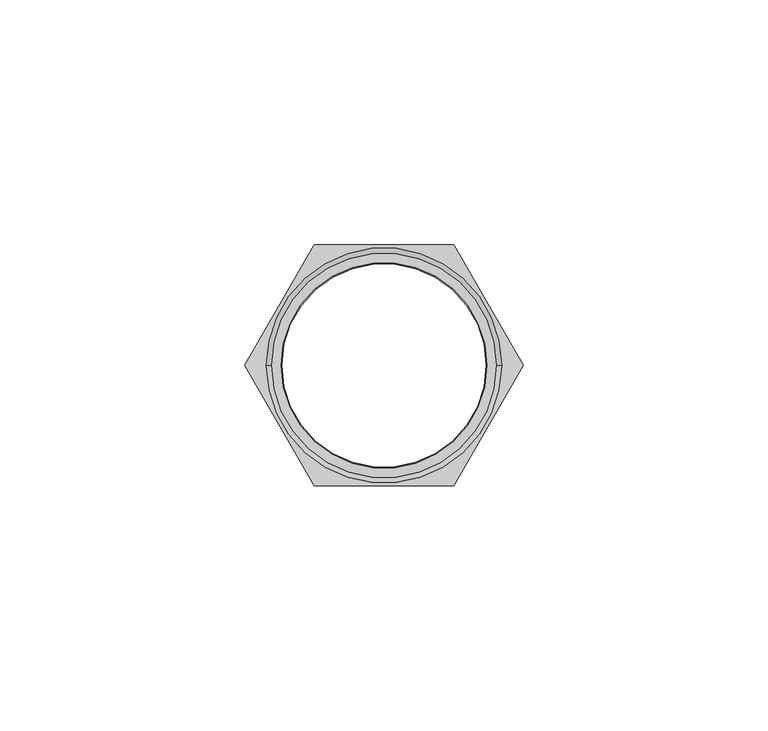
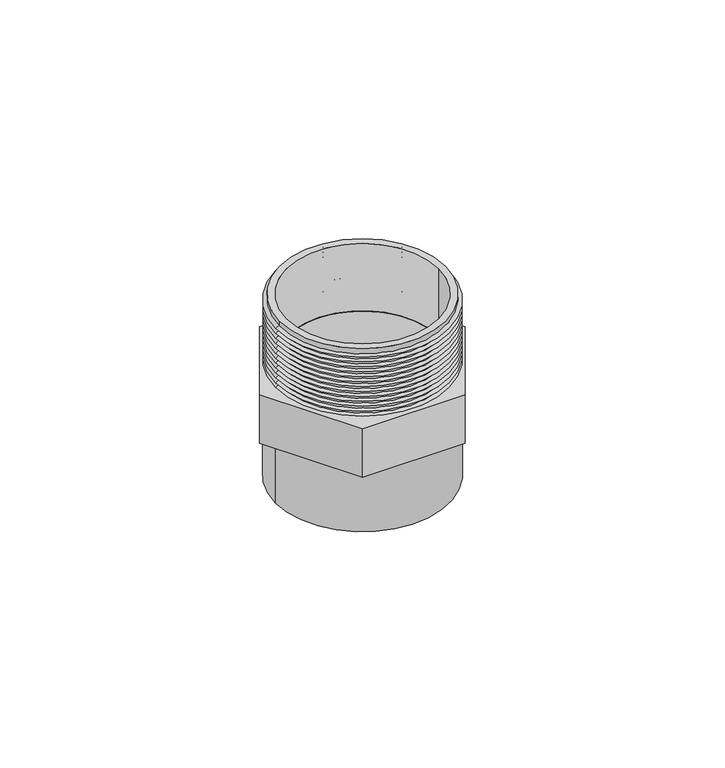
"""IFC4 building model written with IfcOpenShell, lengths in millimetres: valve geometry, Adaptador Macho_Lubrizol_CPVC_FlowGuard_MX 38mm : Adaptador Macho_Lubrizol_CPVC_FlowGuard_MX 38mm."""

from ifc_helpers import new_model, si_unit, point, frame, origin, origin_with_axes, origin_2d, place, context, project, spatial, polyline, circle_curve, trimmed, segment, composite_curve, outline, extrude, source, transform, mapped, element, save
from ifc_brep_helpers import plane_surface, cylinder_surface, revolved_surface, advanced_brep


def valve_c2e6266b(model_context):
    return source(origin(), model_context, "Body", "SolidModel", [
        extrude(outline(composite_curve([segment(trimmed(circle_curve(origin_2d(), 22.9323508), [point((-22.9323508, 0.0))], [point((22.9323508, 0.0))], False, "CARTESIAN"), True, "CONTINUOUS"), segment(trimmed(circle_curve(origin_2d(), 22.9323508), [point((22.9323508, 0.0))], [point((-22.9323508, 0.0))], False, "CARTESIAN"), True, "CONTINUOUS")], self_intersect=False), holes=[composite_curve([segment(trimmed(circle_curve(origin_2d(), 21.0), [point((-21.0, 0.0))], [point((21.0, 0.0))], True, "CARTESIAN"), True, "CONTINUOUS"), segment(trimmed(circle_curve(origin_2d(), 21.0), [point((21.0, 0.0))], [point((-21.0, 0.0))], True, "CARTESIAN"), True, "CONTINUOUS")], self_intersect=False)]), frame((0.0, 0.0, 33.1707154), z_axis=(0.0, 0.0, 1.0), x_axis=(1.0, 0.0, 0.0)), (0.0, 0.0, 1.0), 19.6840834),
        extrude(outline(polyline([(-14.2085802, -24.6099828), (-28.4171604, 0.0), (-14.2085802, 24.6099828), (14.2085802, 24.6099828), (28.4171604, 0.0), (14.2085802, -24.6099828), (-14.2085802, -24.6099828)]), holes=[composite_curve([segment(trimmed(circle_curve(origin_2d(), 20.7927658), [point((-20.7927658, 0.0))], [point((20.7927658, 0.0))], True, "CARTESIAN"), True, "CONTINUOUS"), segment(trimmed(circle_curve(origin_2d(), 20.7927658), [point((20.7927658, 0.0))], [point((-20.7927658, 0.0))], True, "CARTESIAN"), True, "CONTINUOUS")], self_intersect=False)]), frame((0.0, 0.0, 19.0682941), z_axis=(0.0, 0.0, 1.0), x_axis=(1.0, 0.0, 0.0)), (0.0, 0.0, 1.0), 14.1024213),
        advanced_brep(
        [(22.9362873, 0.0, 51.8637271), (-22.9362873, 0.0, 51.8637271), (-22.9362873, 0.0, 52.8547988), (22.9362873, 0.0, 52.8547988), (24.0, 0.0, 51.1189075), (-24.0, 0.0, 51.1189075), (22.9657757, 0.0, 50.3947359), (-22.9657757, 0.0, 50.3947359), (24.0, 0.0, 49.6705643), (-24.0, 0.0, 49.6705643), (22.9657757, 0.0, 48.9463926), (-22.9657757, 0.0, 48.9463926), (24.0, 0.0, 48.222221), (-24.0, 0.0, 48.222221), (22.9657757, 0.0, 47.4980494), (-22.9657757, 0.0, 47.4980494), (24.0, 0.0, 46.7738778), (-24.0, 0.0, 46.7738778), (22.9657757, 0.0, 46.0497062), (-22.9657757, 0.0, 46.0497062), (24.0, 0.0, 45.3255345), (-24.0, 0.0, 45.3255345), (22.9657757, 0.0, 44.6013629), (-22.9657757, 0.0, 44.6013629), (24.0, 0.0, 43.8771913), (-24.0, 0.0, 43.8771913), (22.9657757, 0.0, 43.1530197), (-22.9657757, 0.0, 43.1530197), (24.0, 0.0, 42.428848), (-24.0, 0.0, 42.428848), (22.9657757, 0.0, 41.7046764), (-22.9657757, 0.0, 41.7046764), (24.0, 0.0, 40.9805048), (-24.0, 0.0, 40.9805048), (22.9657757, 0.0, 40.2563332), (-22.9657757, 0.0, 40.2563332), (24.0, 0.0, 39.5321616), (-24.0, 0.0, 39.5321616), (22.9992007, 0.0, 38.8313943), (-22.9992007, 0.0, 38.8313943), (24.0, 0.0, 38.1306271), (-24.0, 0.0, 38.1306271), (22.9992007, 0.0, 37.4298599), (-22.9992007, 0.0, 37.4298599), (24.0, 0.0, 36.7290927), (-24.0, 0.0, 36.7290927), (22.9323508, 0.0, 35.9815167), (-22.9323508, 0.0, 35.9815167), (24.0, 0.0, 35.2339406), (-24.0, 0.0, 35.2339406), (22.9992007, 0.0, 34.5331734), (-22.9992007, 0.0, 34.5331734), (22.0854831, 0.0, 33.1707154), (-22.0854831, 0.0, 33.1707154), (-23.0550075, 0.0, 33.1707154), (23.0550075, 0.0, 33.1707154), (22.0854831, 0.0, 52.8547988), (-22.0854831, 0.0, 52.8547988), (24.0, 0.0, 33.8324062), (-24.0, 0.0, 33.8324062)],
        [
            (0, 1, circle_curve(frame((0.0, 0.0, 51.8637271), z_axis=(0.0, 0.0, 1.0), x_axis=(-1.0, 0.0, 0.0)), 22.9362873)),
            (1, 2),
            (2, 3, circle_curve(frame((0.0, 0.0, 52.8547988), z_axis=(0.0, 0.0, -1.0), x_axis=(-1.0, 0.0, 0.0)), 22.9362873)),
            (3, 0),
            (1, 0, circle_curve(frame((0.0, 0.0, 51.8637271), z_axis=(0.0, 0.0, 1.0), x_axis=(-1.0, 0.0, 0.0)), 22.9362873)),
            (3, 2, circle_curve(frame((0.0, 0.0, 52.8547988), z_axis=(0.0, 0.0, -1.0), x_axis=(-1.0, 0.0, 0.0)), 22.9362873)),
            (4, 5, circle_curve(frame((0.0, 0.0, 51.1189075), z_axis=(0.0, 0.0, 1.0), x_axis=(-1.0, 0.0, 0.0)), 24.0)),
            (5, 1),
            (0, 4),
            (5, 4, circle_curve(frame((0.0, 0.0, 51.1189075), z_axis=(0.0, 0.0, 1.0), x_axis=(-1.0, 0.0, 0.0)), 24.0)),
            (6, 7, circle_curve(frame((0.0, 0.0, 50.3947359), z_axis=(0.0, 0.0, 1.0), x_axis=(-1.0, 0.0, 0.0)), 22.9657757)),
            (7, 5),
            (4, 6),
            (7, 6, circle_curve(frame((0.0, 0.0, 50.3947359), z_axis=(0.0, 0.0, 1.0), x_axis=(-1.0, 0.0, 0.0)), 22.9657757)),
            (8, 9, circle_curve(frame((0.0, 0.0, 49.6705643), z_axis=(0.0, 0.0, 1.0), x_axis=(-1.0, 0.0, 0.0)), 24.0)),
            (9, 7),
            (6, 8),
            (9, 8, circle_curve(frame((0.0, 0.0, 49.6705643), z_axis=(0.0, 0.0, 1.0), x_axis=(-1.0, 0.0, 0.0)), 24.0)),
            (10, 11, circle_curve(frame((0.0, 0.0, 48.9463926), z_axis=(0.0, 0.0, 1.0), x_axis=(-1.0, 0.0, 0.0)), 22.9657757)),
            (11, 9),
            (8, 10),
            (11, 10, circle_curve(frame((0.0, 0.0, 48.9463926), z_axis=(0.0, 0.0, 1.0), x_axis=(-1.0, 0.0, 0.0)), 22.9657757)),
            (12, 13, circle_curve(frame((0.0, 0.0, 48.222221), z_axis=(0.0, 0.0, 1.0), x_axis=(-1.0, 0.0, 0.0)), 24.0)),
            (13, 11),
            (10, 12),
            (13, 12, circle_curve(frame((0.0, 0.0, 48.222221), z_axis=(0.0, 0.0, 1.0), x_axis=(-1.0, 0.0, 0.0)), 24.0)),
            (14, 15, circle_curve(frame((0.0, 0.0, 47.4980494), z_axis=(0.0, 0.0, 1.0), x_axis=(-1.0, 0.0, 0.0)), 22.9657757)),
            (15, 13),
            (12, 14),
            (15, 14, circle_curve(frame((0.0, 0.0, 47.4980494), z_axis=(0.0, 0.0, 1.0), x_axis=(-1.0, 0.0, 0.0)), 22.9657757)),
            (16, 17, circle_curve(frame((0.0, 0.0, 46.7738778), z_axis=(0.0, 0.0, 1.0), x_axis=(-1.0, 0.0, 0.0)), 24.0)),
            (17, 15),
            (14, 16),
            (17, 16, circle_curve(frame((0.0, 0.0, 46.7738778), z_axis=(0.0, 0.0, 1.0), x_axis=(-1.0, 0.0, 0.0)), 24.0)),
            (18, 19, circle_curve(frame((0.0, 0.0, 46.0497062), z_axis=(0.0, 0.0, 1.0), x_axis=(-1.0, 0.0, 0.0)), 22.9657757)),
            (19, 17),
            (16, 18),
            (19, 18, circle_curve(frame((0.0, 0.0, 46.0497062), z_axis=(0.0, 0.0, 1.0), x_axis=(-1.0, 0.0, 0.0)), 22.9657757)),
            (20, 21, circle_curve(frame((0.0, 0.0, 45.3255345), z_axis=(0.0, 0.0, 1.0), x_axis=(-1.0, 0.0, 0.0)), 24.0)),
            (21, 19),
            (18, 20),
            (21, 20, circle_curve(frame((0.0, 0.0, 45.3255345), z_axis=(0.0, 0.0, 1.0), x_axis=(-1.0, 0.0, 0.0)), 24.0)),
            (22, 23, circle_curve(frame((0.0, 0.0, 44.6013629), z_axis=(0.0, 0.0, 1.0), x_axis=(-1.0, 0.0, 0.0)), 22.9657757)),
            (23, 21),
            (20, 22),
            (23, 22, circle_curve(frame((0.0, 0.0, 44.6013629), z_axis=(0.0, 0.0, 1.0), x_axis=(-1.0, 0.0, 0.0)), 22.9657757)),
            (24, 25, circle_curve(frame((0.0, 0.0, 43.8771913), z_axis=(0.0, 0.0, 1.0), x_axis=(-1.0, 0.0, 0.0)), 24.0)),
            (25, 23),
            (22, 24),
            (25, 24, circle_curve(frame((0.0, 0.0, 43.8771913), z_axis=(0.0, 0.0, 1.0), x_axis=(-1.0, 0.0, 0.0)), 24.0)),
            (26, 27, circle_curve(frame((0.0, 0.0, 43.1530197), z_axis=(0.0, 0.0, 1.0), x_axis=(-1.0, 0.0, 0.0)), 22.9657757)),
            (27, 25),
            (24, 26),
            (27, 26, circle_curve(frame((0.0, 0.0, 43.1530197), z_axis=(0.0, 0.0, 1.0), x_axis=(-1.0, 0.0, 0.0)), 22.9657757)),
            (28, 29, circle_curve(frame((0.0, 0.0, 42.428848), z_axis=(0.0, 0.0, 1.0), x_axis=(-1.0, 0.0, 0.0)), 24.0)),
            (29, 27),
            (26, 28),
            (29, 28, circle_curve(frame((0.0, 0.0, 42.428848), z_axis=(0.0, 0.0, 1.0), x_axis=(-1.0, 0.0, 0.0)), 24.0)),
            (30, 31, circle_curve(frame((0.0, 0.0, 41.7046764), z_axis=(0.0, 0.0, 1.0), x_axis=(-1.0, 0.0, 0.0)), 22.9657757)),
            (31, 29),
            (28, 30),
            (31, 30, circle_curve(frame((0.0, 0.0, 41.7046764), z_axis=(0.0, 0.0, 1.0), x_axis=(-1.0, 0.0, 0.0)), 22.9657757)),
            (32, 33, circle_curve(frame((0.0, 0.0, 40.9805048), z_axis=(0.0, 0.0, 1.0), x_axis=(-1.0, 0.0, 0.0)), 24.0)),
            (33, 31),
            (30, 32),
            (33, 32, circle_curve(frame((0.0, 0.0, 40.9805048), z_axis=(0.0, 0.0, 1.0), x_axis=(-1.0, 0.0, 0.0)), 24.0)),
            (34, 35, circle_curve(frame((0.0, 0.0, 40.2563332), z_axis=(0.0, 0.0, 1.0), x_axis=(-1.0, 0.0, 0.0)), 22.9657757)),
            (35, 33),
            (32, 34),
            (35, 34, circle_curve(frame((0.0, 0.0, 40.2563332), z_axis=(0.0, 0.0, 1.0), x_axis=(-1.0, 0.0, 0.0)), 22.9657757)),
            (36, 37, circle_curve(frame((0.0, 0.0, 39.5321616), z_axis=(0.0, 0.0, 1.0), x_axis=(-1.0, 0.0, 0.0)), 24.0)),
            (37, 35),
            (34, 36),
            (37, 36, circle_curve(frame((0.0, 0.0, 39.5321616), z_axis=(0.0, 0.0, 1.0), x_axis=(-1.0, 0.0, 0.0)), 24.0)),
            (38, 39, circle_curve(frame((0.0, 0.0, 38.8313943), z_axis=(0.0, 0.0, 1.0), x_axis=(-1.0, 0.0, 0.0)), 22.9992007)),
            (39, 37),
            (36, 38),
            (39, 38, circle_curve(frame((0.0, 0.0, 38.8313943), z_axis=(0.0, 0.0, 1.0), x_axis=(-1.0, 0.0, 0.0)), 22.9992007)),
            (40, 41, circle_curve(frame((0.0, 0.0, 38.1306271), z_axis=(0.0, 0.0, 1.0), x_axis=(-1.0, 0.0, 0.0)), 24.0)),
            (41, 39),
            (38, 40),
            (41, 40, circle_curve(frame((0.0, 0.0, 38.1306271), z_axis=(0.0, 0.0, 1.0), x_axis=(-1.0, 0.0, 0.0)), 24.0)),
            (42, 43, circle_curve(frame((0.0, 0.0, 37.4298599), z_axis=(0.0, 0.0, 1.0), x_axis=(-1.0, 0.0, 0.0)), 22.9992007)),
            (43, 41),
            (40, 42),
            (43, 42, circle_curve(frame((0.0, 0.0, 37.4298599), z_axis=(0.0, 0.0, 1.0), x_axis=(-1.0, 0.0, 0.0)), 22.9992007)),
            (44, 45, circle_curve(frame((0.0, 0.0, 36.7290927), z_axis=(0.0, 0.0, 1.0), x_axis=(-1.0, 0.0, 0.0)), 24.0)),
            (45, 43),
            (42, 44),
            (45, 44, circle_curve(frame((0.0, 0.0, 36.7290927), z_axis=(0.0, 0.0, 1.0), x_axis=(-1.0, 0.0, 0.0)), 24.0)),
            (46, 47, circle_curve(frame((0.0, 0.0, 35.9815167), z_axis=(0.0, 0.0, 1.0), x_axis=(-1.0, 0.0, 0.0)), 22.9323508)),
            (47, 45),
            (44, 46),
            (47, 46, circle_curve(frame((0.0, 0.0, 35.9815167), z_axis=(0.0, 0.0, 1.0), x_axis=(-1.0, 0.0, 0.0)), 22.9323508)),
            (48, 49, circle_curve(frame((0.0, 0.0, 35.2339406), z_axis=(0.0, 0.0, 1.0), x_axis=(-1.0, 0.0, 0.0)), 24.0)),
            (49, 47),
            (46, 48),
            (49, 48, circle_curve(frame((0.0, 0.0, 35.2339406), z_axis=(0.0, 0.0, 1.0), x_axis=(-1.0, 0.0, 0.0)), 24.0)),
            (50, 51, circle_curve(frame((0.0, 0.0, 34.5331734), z_axis=(0.0, 0.0, 1.0), x_axis=(-1.0, 0.0, 0.0)), 22.9992007)),
            (51, 49),
            (48, 50),
            (51, 50, circle_curve(frame((0.0, 0.0, 34.5331734), z_axis=(0.0, 0.0, 1.0), x_axis=(-1.0, 0.0, 0.0)), 22.9992007)),
            (52, 53, circle_curve(frame((0.0, 0.0, 33.1707154), z_axis=(0.0, 0.0, 1.0), x_axis=(-1.0, 0.0, 0.0)), 22.0854831)),
            (53, 54),
            (54, 55, circle_curve(frame((0.0, 0.0, 33.1707154), z_axis=(0.0, 0.0, -1.0), x_axis=(-1.0, 0.0, 0.0)), 23.0550075)),
            (55, 52),
            (53, 52, circle_curve(frame((0.0, 0.0, 33.1707154), z_axis=(0.0, 0.0, 1.0), x_axis=(-1.0, 0.0, 0.0)), 22.0854831)),
            (55, 54, circle_curve(frame((0.0, 0.0, 33.1707154), z_axis=(0.0, 0.0, -1.0), x_axis=(-1.0, 0.0, 0.0)), 23.0550075)),
            (56, 57, circle_curve(frame((0.0, 0.0, 52.8547988), z_axis=(0.0, 0.0, 1.0), x_axis=(-1.0, 0.0, 0.0)), 22.0854831)),
            (57, 53),
            (52, 56),
            (57, 56, circle_curve(frame((0.0, 0.0, 52.8547988), z_axis=(0.0, 0.0, 1.0), x_axis=(-1.0, 0.0, 0.0)), 22.0854831)),
            (2, 57),
            (56, 3),
            (58, 59, circle_curve(frame((0.0, 0.0, 33.8324062), z_axis=(0.0, 0.0, 1.0), x_axis=(-1.0, 0.0, 0.0)), 24.0)),
            (59, 51),
            (50, 58),
            (59, 58, circle_curve(frame((0.0, 0.0, 33.8324062), z_axis=(0.0, 0.0, 1.0), x_axis=(-1.0, 0.0, 0.0)), 24.0)),
            (54, 59),
            (58, 55),
        ],
        [
            cylinder_surface(frame((0.0, 0.0, 47.613787), z_axis=(0.0, 0.0, -1.0), x_axis=(-1.0, 0.0, 0.0)), 22.9362873),
            revolved_surface(polyline([(-22.9362873, 0.0, 51.8637271), (-24.0, 0.0, 51.1189075)]), (0.0, 0.0, 47.613787), (0.0, 0.0, -1.0)),
            revolved_surface(polyline([(-24.0, 0.0, 51.1189075), (-22.9657757, 0.0, 50.3947359)]), (0.0, 0.0, 47.613787), (0.0, 0.0, -1.0)),
            revolved_surface(polyline([(-22.9657757, 0.0, 50.3947359), (-24.0, 0.0, 49.6705643)]), (0.0, 0.0, 47.613787), (0.0, 0.0, -1.0)),
            revolved_surface(polyline([(-24.0, 0.0, 49.6705643), (-22.9657757, 0.0, 48.9463926)]), (0.0, 0.0, 47.613787), (0.0, 0.0, -1.0)),
            revolved_surface(polyline([(-22.9657757, 0.0, 48.9463926), (-24.0, 0.0, 48.222221)]), (0.0, 0.0, 47.613787), (0.0, 0.0, -1.0)),
            revolved_surface(polyline([(-24.0, 0.0, 48.222221), (-22.9657757, 0.0, 47.4980494)]), (0.0, 0.0, 47.613787), (0.0, 0.0, -1.0)),
            revolved_surface(polyline([(-22.9657757, 0.0, 47.4980494), (-24.0, 0.0, 46.7738778)]), (0.0, 0.0, 47.613787), (0.0, 0.0, -1.0)),
            revolved_surface(polyline([(-24.0, 0.0, 46.7738778), (-22.9657757, 0.0, 46.0497062)]), (0.0, 0.0, 47.613787), (0.0, 0.0, -1.0)),
            revolved_surface(polyline([(-22.9657757, 0.0, 46.0497062), (-24.0, 0.0, 45.3255345)]), (0.0, 0.0, 47.613787), (0.0, 0.0, -1.0)),
            revolved_surface(polyline([(-24.0, 0.0, 45.3255345), (-22.9657757, 0.0, 44.6013629)]), (0.0, 0.0, 47.613787), (0.0, 0.0, -1.0)),
            revolved_surface(polyline([(-22.9657757, 0.0, 44.6013629), (-24.0, 0.0, 43.8771913)]), (0.0, 0.0, 47.613787), (0.0, 0.0, -1.0)),
            revolved_surface(polyline([(-24.0, 0.0, 43.8771913), (-22.9657757, 0.0, 43.1530197)]), (0.0, 0.0, 47.613787), (0.0, 0.0, -1.0)),
            revolved_surface(polyline([(-22.9657757, 0.0, 43.1530197), (-24.0, 0.0, 42.428848)]), (0.0, 0.0, 47.613787), (0.0, 0.0, -1.0)),
            revolved_surface(polyline([(-24.0, 0.0, 42.428848), (-22.9657757, 0.0, 41.7046764)]), (0.0, 0.0, 47.613787), (0.0, 0.0, -1.0)),
            revolved_surface(polyline([(-22.9657757, 0.0, 41.7046764), (-24.0, 0.0, 40.9805048)]), (0.0, 0.0, 47.613787), (0.0, 0.0, -1.0)),
            revolved_surface(polyline([(-24.0, 0.0, 40.9805048), (-22.9657757, 0.0, 40.2563332)]), (0.0, 0.0, 47.613787), (0.0, 0.0, -1.0)),
            revolved_surface(polyline([(-22.9657757, 0.0, 40.2563332), (-24.0, 0.0, 39.5321616)]), (0.0, 0.0, 47.613787), (0.0, 0.0, -1.0)),
            revolved_surface(polyline([(-24.0, 0.0, 39.5321616), (-22.9992007, 0.0, 38.8313943)]), (0.0, 0.0, 47.613787), (0.0, 0.0, -1.0)),
            revolved_surface(polyline([(-22.9992007, 0.0, 38.8313943), (-24.0, 0.0, 38.1306271)]), (0.0, 0.0, 47.613787), (0.0, 0.0, -1.0)),
            revolved_surface(polyline([(-24.0, 0.0, 38.1306271), (-22.9992007, 0.0, 37.4298599)]), (0.0, 0.0, 47.613787), (0.0, 0.0, -1.0)),
            revolved_surface(polyline([(-22.9992007, 0.0, 37.4298599), (-24.0, 0.0, 36.7290927)]), (0.0, 0.0, 47.613787), (0.0, 0.0, -1.0)),
            revolved_surface(polyline([(-24.0, 0.0, 36.7290927), (-22.9323508, 0.0, 35.9815167)]), (0.0, 0.0, 47.613787), (0.0, 0.0, -1.0)),
            revolved_surface(polyline([(-22.9323508, 0.0, 35.9815167), (-24.0, 0.0, 35.2339406)]), (0.0, 0.0, 47.613787), (0.0, 0.0, -1.0)),
            revolved_surface(polyline([(-24.0, 0.0, 35.2339406), (-22.9992007, 0.0, 34.5331734)]), (0.0, 0.0, 47.613787), (0.0, 0.0, -1.0)),
            plane_surface(frame((0.0, 0.0, 33.1707154), z_axis=(0.0, 0.0, -1.0), x_axis=(-1.0, 0.0, 0.0))),
            revolved_surface(polyline([(-22.0854831, 0.0, 33.1707154), (-22.0854831, 0.0, 52.8547988)]), (0.0, 0.0, 47.613787), (0.0, 0.0, -1.0)),
            plane_surface(frame((0.0, 0.0, 52.8547988), z_axis=(0.0, 0.0, 1.0), x_axis=(-1.0, 0.0, 0.0))),
            revolved_surface(polyline([(-22.9992007, 0.0, 34.5331734), (-24.0, 0.0, 33.8324062)]), (0.0, 0.0, 47.613787), (0.0, 0.0, -1.0)),
            revolved_surface(polyline([(-24.0, 0.0, 33.8324062), (-23.0550075, 0.0, 33.1707154)]), (0.0, 0.0, 47.613787), (0.0, 0.0, -1.0)),
        ],
        [
            (0, [[1, 2, 3, 4]]),
            (0, [[5, -4, 6, -2]]),
            (1, [[7, 8, -1, 9]]),
            (1, [[10, -9, -5, -8]]),
            (2, [[11, 12, -7, 13]]),
            (2, [[14, -13, -10, -12]]),
            (3, [[15, 16, -11, 17]]),
            (3, [[18, -17, -14, -16]]),
            (4, [[19, 20, -15, 21]]),
            (4, [[22, -21, -18, -20]]),
            (5, [[23, 24, -19, 25]]),
            (5, [[26, -25, -22, -24]]),
            (6, [[27, 28, -23, 29]]),
            (6, [[30, -29, -26, -28]]),
            (7, [[31, 32, -27, 33]]),
            (7, [[34, -33, -30, -32]]),
            (8, [[35, 36, -31, 37]]),
            (8, [[38, -37, -34, -36]]),
            (9, [[39, 40, -35, 41]]),
            (9, [[42, -41, -38, -40]]),
            (10, [[43, 44, -39, 45]]),
            (10, [[46, -45, -42, -44]]),
            (11, [[47, 48, -43, 49]]),
            (11, [[50, -49, -46, -48]]),
            (12, [[51, 52, -47, 53]]),
            (12, [[54, -53, -50, -52]]),
            (13, [[55, 56, -51, 57]]),
            (13, [[58, -57, -54, -56]]),
            (14, [[59, 60, -55, 61]]),
            (14, [[62, -61, -58, -60]]),
            (15, [[63, 64, -59, 65]]),
            (15, [[66, -65, -62, -64]]),
            (16, [[67, 68, -63, 69]]),
            (16, [[70, -69, -66, -68]]),
            (17, [[71, 72, -67, 73]]),
            (17, [[74, -73, -70, -72]]),
            (18, [[75, 76, -71, 77]]),
            (18, [[78, -77, -74, -76]]),
            (19, [[79, 80, -75, 81]]),
            (19, [[82, -81, -78, -80]]),
            (20, [[83, 84, -79, 85]]),
            (20, [[86, -85, -82, -84]]),
            (21, [[87, 88, -83, 89]]),
            (21, [[90, -89, -86, -88]]),
            (22, [[91, 92, -87, 93]]),
            (22, [[94, -93, -90, -92]]),
            (23, [[95, 96, -91, 97]]),
            (23, [[98, -97, -94, -96]]),
            (24, [[99, 100, -95, 101]]),
            (24, [[102, -101, -98, -100]]),
            (25, [[103, 104, 105, 106]]),
            (25, [[107, -106, 108, -104]]),
            (26, [[109, 110, -103, 111]]),
            (26, [[112, -111, -107, -110]]),
            (27, [[-3, 113, -109, 114]]),
            (27, [[-6, -114, -112, -113]]),
            (28, [[115, 116, -99, 117]]),
            (28, [[118, -117, -102, -116]]),
            (29, [[-105, 119, -115, 120]]),
            (29, [[-108, -120, -118, -119]]),
        ],
    ),
        extrude(outline(composite_curve([segment(trimmed(circle_curve(origin_2d(), 24.0), [point((-24.0, 0.0))], [point((24.0, 0.0))], False, "CARTESIAN"), True, "CONTINUOUS"), segment(trimmed(circle_curve(origin_2d(), 24.0), [point((24.0, 0.0))], [point((-24.0, 0.0))], False, "CARTESIAN"), True, "CONTINUOUS")], self_intersect=False), holes=[composite_curve([segment(trimmed(circle_curve(origin_2d(), 21.0), [point((-21.0, 0.0))], [point((21.0, 0.0))], True, "CARTESIAN"), True, "CONTINUOUS"), segment(trimmed(circle_curve(origin_2d(), 21.0), [point((21.0, 0.0))], [point((-21.0, 0.0))], True, "CARTESIAN"), True, "CONTINUOUS")], self_intersect=False)]), origin_with_axes(), (0.0, 0.0, 1.0), 19.0682941),
    ])


if __name__ == "__main__":
    model = new_model("IFC4")
    model_context = context("Model", 3, world=origin())
    ifc_project = project(units=[si_unit("LENGTHUNIT", "METRE", prefix="MILLI")], contexts=[model_context])
    site = spatial("IfcSite", under=ifc_project)
    building = spatial("IfcBuilding", under=site)
    placement = place(None, origin())
    valve_shape = valve_c2e6266b(model_context)
    element("IfcValve", 1, ObjectType="Adaptador Macho_Lubrizol_CPVC_FlowGuard_MX 38mm : Adaptador Macho_Lubrizol_CPVC_FlowGuard_MX 38mm", at=placement, inside=building, context=model_context, shape_type="MappedRepresentation", body=[
        mapped(valve_shape, transform((0.0, 0.0, 0.0), x_axis=(1.0, 0.0, 0.0), y_axis=(0.0, 1.0, 0.0), z_axis=(0.0, 0.0, 1.0))),
    ])
    save(model, "model.ifc")
